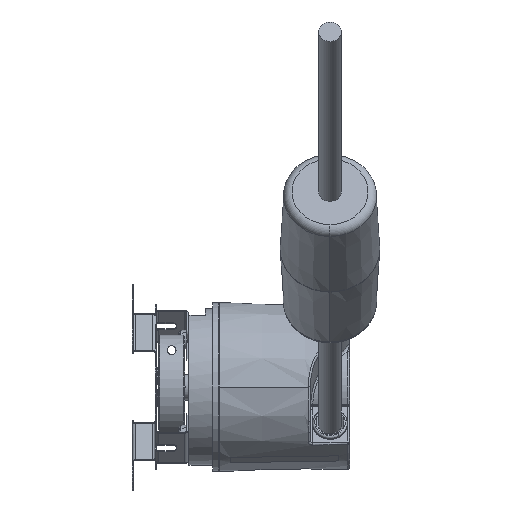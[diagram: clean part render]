
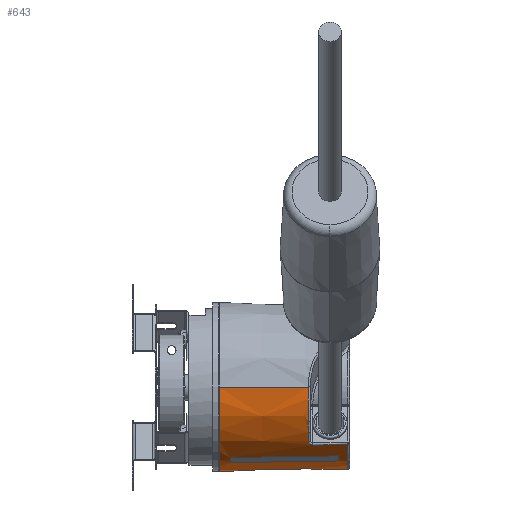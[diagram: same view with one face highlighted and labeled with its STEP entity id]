
A CAD part, front view. The second image highlights one B-rep face of the part: STEP entity #643.
In plain terms, the highlighted conical face has half-angle 1 degrees and reference radius 18.976 mm.
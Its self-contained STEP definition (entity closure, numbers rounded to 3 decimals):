
#639 = EDGE_CURVE ( 'NONE', #766, #640, #5257, .T. ) ;
#640 = VERTEX_POINT ( 'NONE', #5256 ) ;
#643 = ADVANCED_FACE ( 'NONE', ( #5246, #5245 ), #5388, .T. ) ;
#644 = EDGE_LOOP ( 'NONE', ( #645, #751, #752, #753, #754, #1036, #1072 ) ) ;
#645 = ORIENTED_EDGE ( 'NONE', *, *, #789, .F. ) ;
#650 = VERTEX_POINT ( 'NONE', #5201 ) ;
#652 = EDGE_CURVE ( 'NONE', #732, #650, #5179, .T. ) ;
#719 = VERTEX_POINT ( 'NONE', #5978 ) ;
#732 = VERTEX_POINT ( 'NONE', #5924 ) ;
#751 = ORIENTED_EDGE ( 'NONE', *, *, #824, .T. ) ;
#752 = ORIENTED_EDGE ( 'NONE', *, *, #652, .T. ) ;
#753 = ORIENTED_EDGE ( 'NONE', *, *, #1050, .F. ) ;
#754 = ORIENTED_EDGE ( 'NONE', *, *, #1067, .T. ) ;
#766 = VERTEX_POINT ( 'NONE', #5698 ) ;
#768 = EDGE_CURVE ( 'NONE', #841, #790, #5765, .T. ) ;
#780 = EDGE_CURVE ( 'NONE', #781, #782, #6175, .T. ) ;
#781 = VERTEX_POINT ( 'NONE', #6174 ) ;
#782 = VERTEX_POINT ( 'NONE', #6171 ) ;
#789 = EDGE_CURVE ( 'NONE', #719, #790, #6126, .T. ) ;
#790 = VERTEX_POINT ( 'NONE', #6182 ) ;
#824 = EDGE_CURVE ( 'NONE', #719, #732, #6467, .T. ) ;
#829 = EDGE_CURVE ( 'NONE', #830, #841, #6347, .T. ) ;
#830 = VERTEX_POINT ( 'NONE', #6343 ) ;
#841 = VERTEX_POINT ( 'NONE', #6442 ) ;
#1036 = ORIENTED_EDGE ( 'NONE', *, *, #829, .T. ) ;
#1050 = EDGE_CURVE ( 'NONE', #1127, #650, #11047, .T. ) ;
#1067 = EDGE_CURVE ( 'NONE', #1127, #830, #7705, .T. ) ;
#1069 = ORIENTED_EDGE ( 'NONE', *, *, #780, .F. ) ;
#1070 = ORIENTED_EDGE ( 'NONE', *, *, #1071, .T. ) ;
#1071 = EDGE_CURVE ( 'NONE', #781, #640, #7696, .T. ) ;
#1072 = ORIENTED_EDGE ( 'NONE', *, *, #768, .T. ) ;
#1073 = EDGE_LOOP ( 'NONE', ( #1069, #1070, #1090, #1091 ) ) ;
#1090 = ORIENTED_EDGE ( 'NONE', *, *, #639, .F. ) ;
#1091 = ORIENTED_EDGE ( 'NONE', *, *, #1092, .F. ) ;
#1092 = EDGE_CURVE ( 'NONE', #782, #766, #7807, .T. ) ;
#1127 = VERTEX_POINT ( 'NONE', #7632 ) ;
#5175 = CARTESIAN_POINT ( 'NONE',  ( 41.375, -13.589, -13.266 ) ) ;
#5176 = CARTESIAN_POINT ( 'NONE',  ( 41.709, -13.586, -13.261 ) ) ;
#5179 = B_SPLINE_CURVE_WITH_KNOTS ( 'NONE', 3,
 ( #5176, #5175, #5273, #5272, #5271, #5270, #5269, #5268, #5267, #5266 ),
 .UNSPECIFIED., .F., .F.,
 ( 4, 3, 3, 4 ),
 ( 0., 0.001, 0.005, 0.008 ),
 .UNSPECIFIED. ) ;
#5201 = CARTESIAN_POINT ( 'NONE',  ( 33.709, -13.658, -13.387 ) ) ;
#5245 = FACE_BOUND ( 'NONE', #1073, .T. ) ;
#5246 = FACE_OUTER_BOUND ( 'NONE', #644, .T. ) ;
#5252 = CARTESIAN_POINT ( 'NONE',  ( 39.7, -8.474, -17.028 ) ) ;
#5253 = CARTESIAN_POINT ( 'NONE',  ( 31.367, -8.543, -17.156 ) ) ;
#5254 = CARTESIAN_POINT ( 'NONE',  ( 23.033, -8.611, -17.284 ) ) ;
#5255 = CARTESIAN_POINT ( 'NONE',  ( 14.7, -8.68, -17.413 ) ) ;
#5256 = CARTESIAN_POINT ( 'NONE',  ( 39.7, -8.474, -17.028 ) ) ;
#5257 = B_SPLINE_CURVE_WITH_KNOTS ( 'NONE', 3,
 ( #5255, #5254, #5253, #5252 ),
 .UNSPECIFIED., .F., .F.,
 ( 4, 4 ),
 ( 0., 0.025 ),
 .UNSPECIFIED. ) ;
#5266 = CARTESIAN_POINT ( 'NONE',  ( 33.709, -13.658, -13.387 ) ) ;
#5267 = CARTESIAN_POINT ( 'NONE',  ( 34.709, -13.649, -13.371 ) ) ;
#5268 = CARTESIAN_POINT ( 'NONE',  ( 35.709, -13.64, -13.356 ) ) ;
#5269 = CARTESIAN_POINT ( 'NONE',  ( 36.71, -13.631, -13.34 ) ) ;
#5270 = CARTESIAN_POINT ( 'NONE',  ( 38.043, -13.619, -13.319 ) ) ;
#5271 = CARTESIAN_POINT ( 'NONE',  ( 39.376, -13.607, -13.298 ) ) ;
#5272 = CARTESIAN_POINT ( 'NONE',  ( 40.709, -13.595, -13.277 ) ) ;
#5273 = CARTESIAN_POINT ( 'NONE',  ( 41.042, -13.592, -13.271 ) ) ;
#5382 = DIRECTION ( 'NONE',  ( 0., -1., 0. ) ) ;
#5383 = DIRECTION ( 'NONE',  ( -1., 0., 0. ) ) ;
#5384 = CARTESIAN_POINT ( 'NONE',  ( 42.2, 0., 0. ) ) ;
#5385 = AXIS2_PLACEMENT_3D ( 'NONE', #5384, #5383, #5382 ) ;
#5388 = CONICAL_SURFACE ( 'NONE', #5385, 18.976, 0.017 ) ;
#5698 = CARTESIAN_POINT ( 'NONE',  ( 14.7, -8.68, -17.413 ) ) ;
#5761 = DIRECTION ( 'NONE',  ( 0., 1., 0. ) ) ;
#5762 = DIRECTION ( 'NONE',  ( 1., 0., 0. ) ) ;
#5763 = CARTESIAN_POINT ( 'NONE',  ( 12.2, 0., 0. ) ) ;
#5764 = AXIS2_PLACEMENT_3D ( 'NONE', #5763, #5762, #5761 ) ;
#5765 = CIRCLE ( 'NONE', #5764, 19.5 ) ;
#5924 = CARTESIAN_POINT ( 'NONE',  ( 41.709, -13.586, -13.261 ) ) ;
#5978 = CARTESIAN_POINT ( 'NONE',  ( 41.709, 18.985, 0. ) ) ;
#6126 = LINE ( 'NONE', #6185, #6184 ) ;
#6157 = CARTESIAN_POINT ( 'NONE',  ( 14.7, -10.74, -16.224 ) ) ;
#6158 = CARTESIAN_POINT ( 'NONE',  ( 23.033, -10.663, -16.1 ) ) ;
#6171 = CARTESIAN_POINT ( 'NONE',  ( 14.7, -10.74, -16.224 ) ) ;
#6172 = CARTESIAN_POINT ( 'NONE',  ( 31.367, -10.586, -15.976 ) ) ;
#6173 = CARTESIAN_POINT ( 'NONE',  ( 39.7, -10.51, -15.853 ) ) ;
#6174 = CARTESIAN_POINT ( 'NONE',  ( 39.7, -10.51, -15.853 ) ) ;
#6175 = B_SPLINE_CURVE_WITH_KNOTS ( 'NONE', 3,
 ( #6173, #6172, #6158, #6157 ),
 .UNSPECIFIED., .F., .F.,
 ( 4, 4 ),
 ( 0., 0.025 ),
 .UNSPECIFIED. ) ;
#6182 = CARTESIAN_POINT ( 'NONE',  ( 12.2, 19.5, 0. ) ) ;
#6183 = DIRECTION ( 'NONE',  ( -1., 0.017, 0. ) ) ;
#6184 = VECTOR ( 'NONE', #6183, 1000. ) ;
#6185 = CARTESIAN_POINT ( 'NONE',  ( 42.2, 18.976, 0. ) ) ;
#6343 = CARTESIAN_POINT ( 'NONE',  ( 32.709, -19.142, 0. ) ) ;
#6344 = DIRECTION ( 'NONE',  ( -1., -0.017, 0. ) ) ;
#6345 = VECTOR ( 'NONE', #6344, 1000. ) ;
#6346 = CARTESIAN_POINT ( 'NONE',  ( 42.2, -18.976, 0. ) ) ;
#6347 = LINE ( 'NONE', #6346, #6345 ) ;
#6442 = CARTESIAN_POINT ( 'NONE',  ( 12.2, -19.5, 0. ) ) ;
#6463 = DIRECTION ( 'NONE',  ( 0., 1., 0. ) ) ;
#6464 = DIRECTION ( 'NONE',  ( -1., 0., 0. ) ) ;
#6465 = CARTESIAN_POINT ( 'NONE',  ( 41.709, 0., 0. ) ) ;
#6466 = AXIS2_PLACEMENT_3D ( 'NONE', #6465, #6464, #6463 ) ;
#6467 = CIRCLE ( 'NONE', #6466, 18.985 ) ;
#7538 = DIRECTION ( 'NONE',  ( 1., 0., 0. ) ) ;
#7595 = CARTESIAN_POINT ( 'NONE',  ( 39.7, 0., 0. ) ) ;
#7632 = CARTESIAN_POINT ( 'NONE',  ( 32.709, -14.397, -12.615 ) ) ;
#7692 = DIRECTION ( 'NONE',  ( 0., -1., 0. ) ) ;
#7693 = AXIS2_PLACEMENT_3D ( 'NONE', #7595, #7538, #7692 ) ;
#7694 = DIRECTION ( 'NONE',  ( 0., 1., 0. ) ) ;
#7696 = CIRCLE ( 'NONE', #7693, 19.02 ) ;
#7702 = DIRECTION ( 'NONE',  ( -1., 0., 0. ) ) ;
#7703 = CARTESIAN_POINT ( 'NONE',  ( 32.709, 0., 0. ) ) ;
#7704 = AXIS2_PLACEMENT_3D ( 'NONE', #7703, #7702, #7694 ) ;
#7705 = CIRCLE ( 'NONE', #7704, 19.142 ) ;
#7806 = CARTESIAN_POINT ( 'NONE',  ( 14.7, 0., 0. ) ) ;
#7807 = CIRCLE ( 'NONE', #7825, 19.456 ) ;
#7823 = DIRECTION ( 'NONE',  ( 0., -1., 0. ) ) ;
#7824 = DIRECTION ( 'NONE',  ( 1., 0., 0. ) ) ;
#7825 = AXIS2_PLACEMENT_3D ( 'NONE', #7806, #7824, #7823 ) ;
#10924 = CARTESIAN_POINT ( 'NONE',  ( 33.709, -13.658, -13.387 ) ) ;
#10925 = CARTESIAN_POINT ( 'NONE',  ( 33.572, -13.659, -13.389 ) ) ;
#10926 = CARTESIAN_POINT ( 'NONE',  ( 33.437, -13.681, -13.37 ) ) ;
#10927 = CARTESIAN_POINT ( 'NONE',  ( 33.19, -13.762, -13.293 ) ) ;
#10928 = CARTESIAN_POINT ( 'NONE',  ( 33.079, -13.821, -13.235 ) ) ;
#10930 = CARTESIAN_POINT ( 'NONE',  ( 32.709, -14.307, -12.718 ) ) ;
#10931 = CARTESIAN_POINT ( 'NONE',  ( 32.709, -14.397, -12.615 ) ) ;
#11047 = B_SPLINE_CURVE_WITH_KNOTS ( 'NONE', 3,
 ( #10931, #10930, #11050, #11049, #11048, #10928, #10927, #10926, #10925, #10924 ),
 .UNSPECIFIED., .F., .F.,
 ( 4, 2, 2, 2, 4 ),
 ( 0., 0., 0.001, 0.001, 0.002 ),
 .UNSPECIFIED. ) ;
#11048 = CARTESIAN_POINT ( 'NONE',  ( 32.898, -13.961, -13.091 ) ) ;
#11049 = CARTESIAN_POINT ( 'NONE',  ( 32.827, -14.044, -13.005 ) ) ;
#11050 = CARTESIAN_POINT ( 'NONE',  ( 32.733, -14.216, -12.819 ) ) ;
